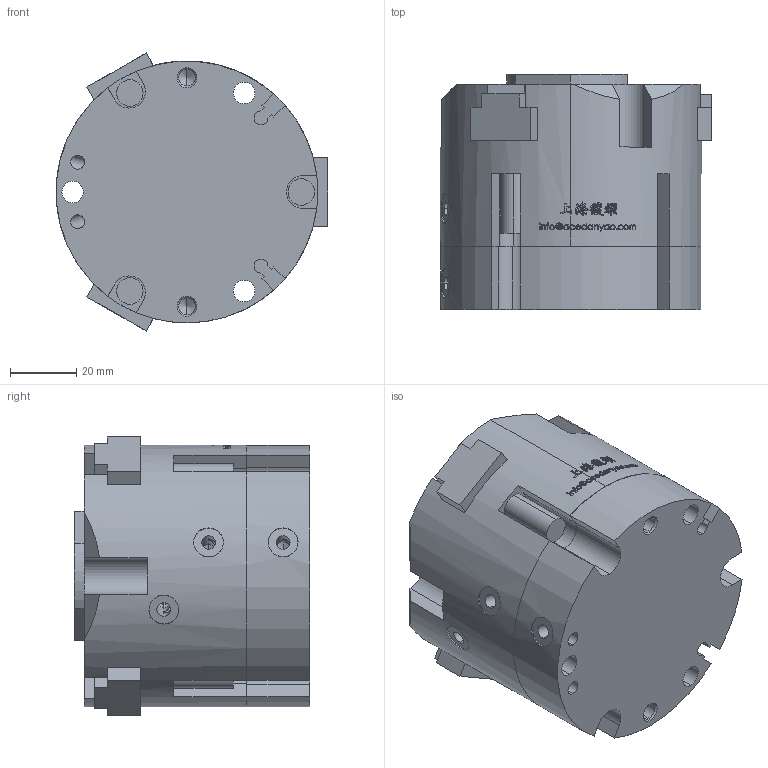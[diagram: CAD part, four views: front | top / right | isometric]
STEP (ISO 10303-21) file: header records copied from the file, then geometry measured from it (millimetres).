
FILE_DESCRIPTION (( 'STEP AP203' ), '1' );
FILE_NAME ('MAC3-80-C1-MC&MA-原始檔-組合-W106.04.14.STEP', '2017-04-14T00:51:10', ( 'DanyaoCAD' ), ( '' ), 'SwSTEP 2.0', 'SolidWorks 2016', '' );
FILE_SCHEMA (( 'CONFIG_CONTROL_DESIGN' ));
Length unit declared in the file: millimetre
Products named in the file (5): Griffa; Coperchio; Corpo; Fondello; MAC3-80-C1-MC&MA-原始檔-組合-W106.04.14
Assembly tree (6 placements, depth 2):
  MAC3-80-C1-MC&MA-原始檔-組合-W106.04.14
    Griffa  x3
    Coperchio
    Corpo
    Fondello
Bounding box: 81.96 x 71 x 83.91 mm (x, y, z)
Volume: 302901.4 mm3; surface area: 64548.7 mm2
Topology: 6 solids, 6 shells, 1141 faces, 3162 edges, 2071 vertices
Faces by surface type: bspline 665, plane 247, cylinder 173, cone 56
Entity records: 74675 total; most frequent: CARTESIAN_POINT 52292, ORIENTED_EDGE 5952, EDGE_CURVE 2976, DIRECTION 2112, B_SPLINE_CURVE_WITH_KNOTS 2048, VERTEX_POINT 1971, EDGE_LOOP 1167, ADVANCED_FACE 1077
